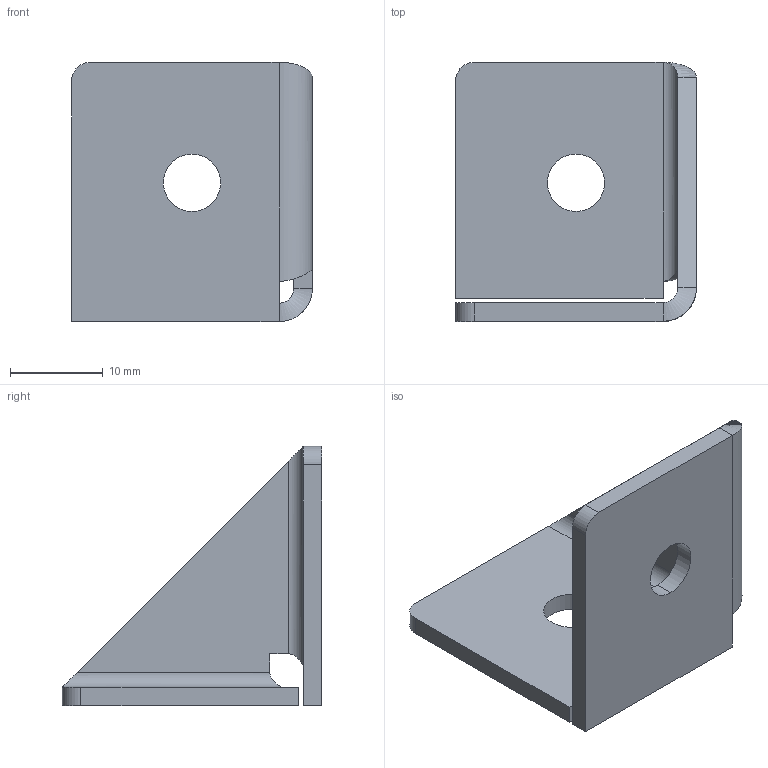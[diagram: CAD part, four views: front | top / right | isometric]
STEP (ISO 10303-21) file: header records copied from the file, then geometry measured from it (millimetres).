
FILE_DESCRIPTION (( 'STEP AP214' ), '1' );
FILE_NAME ('8103s.STEP', '2015-03-29T14:42:41', ( '' ), ( '' ), 'SwSTEP 2.0', 'SolidWorks 2014', '' );
FILE_SCHEMA (( 'AUTOMOTIVE_DESIGN' ));
Length unit declared in the file: millimetre
Products named in the file (1): 8103s
Bounding box: 26 x 28 x 28 mm (x, y, z)
Volume: 3151.1 mm3; surface area: 3631.7 mm2
Topology: 1 solids, 1 shells, 31 faces, 71 edges, 42 vertices
Faces by surface type: plane 17, cylinder 10, bspline 4
Entity records: 987 total; most frequent: CARTESIAN_POINT 283, ORIENTED_EDGE 142, DIRECTION 127, EDGE_CURVE 71, LINE 47, VECTOR 47, VERTEX_POINT 42, AXIS2_PLACEMENT_3D 40
